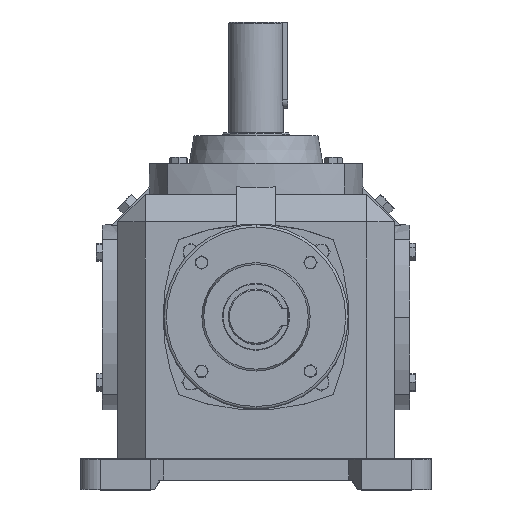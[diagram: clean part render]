
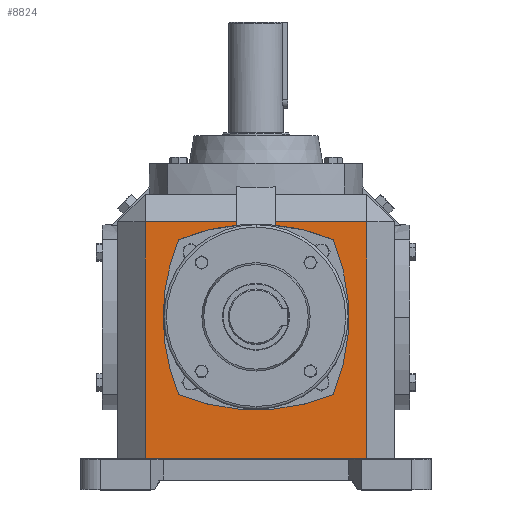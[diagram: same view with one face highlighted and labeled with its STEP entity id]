
A CAD part, top view. The second image highlights one B-rep face of the part: STEP entity #8824.
In plain terms, the highlighted planar face has unit normal (0, 0, 1).
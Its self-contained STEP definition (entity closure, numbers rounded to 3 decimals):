
#12 = ORIENTED_EDGE ( 'NONE', *, *, #2185, .T. ) ;
#111 = ORIENTED_EDGE ( 'NONE', *, *, #13723, .T. ) ;
#138 = CARTESIAN_POINT ( 'NONE',  ( 62.819, -62.819, 112.5 ) ) ;
#168 = ORIENTED_EDGE ( 'NONE', *, *, #12057, .T. ) ;
#200 = DIRECTION ( 'NONE',  ( 0., 0., 1. ) ) ;
#273 = CIRCLE ( 'NONE', #12352, 162.788 ) ;
#297 = LINE ( 'NONE', #4322, #12336 ) ;
#361 = VECTOR ( 'NONE', #5824, 1000. ) ;
#385 = VERTEX_POINT ( 'NONE', #1208 ) ;
#752 = CARTESIAN_POINT ( 'NONE',  ( 62.819, 62.819, 112.5 ) ) ;
#753 = CIRCLE ( 'NONE', #1427, 162.788 ) ;
#971 = CARTESIAN_POINT ( 'NONE',  ( -62.819, 62.819, 112.5 ) ) ;
#1208 = CARTESIAN_POINT ( 'NONE',  ( 15.8, 77.428, 112.5 ) ) ;
#1216 = CARTESIAN_POINT ( 'NONE',  ( -62.819, -62.819, 112.5 ) ) ;
#1262 = CARTESIAN_POINT ( 'NONE',  ( 87.36, 0., 112.5 ) ) ;
#1427 = AXIS2_PLACEMENT_3D ( 'NONE', #19741, #2568, #7350 ) ;
#1588 = CARTESIAN_POINT ( 'NONE',  ( -87.36, 0., 112.5 ) ) ;
#1984 = CARTESIAN_POINT ( 'NONE',  ( -15.8, 100., 112.5 ) ) ;
#2087 = LINE ( 'NONE', #3438, #6292 ) ;
#2169 = AXIS2_PLACEMENT_3D ( 'NONE', #3971, #11737, #5688 ) ;
#2185 = EDGE_CURVE ( 'NONE', #14035, #4800, #297, .T. ) ;
#2568 = DIRECTION ( 'NONE',  ( 0., 0., 1. ) ) ;
#2859 = DIRECTION ( 'NONE',  ( 1., 0., 0. ) ) ;
#3051 = EDGE_CURVE ( 'NONE', #19356, #20432, #753, .T. ) ;
#3081 = AXIS2_PLACEMENT_3D ( 'NONE', #18216, #5641, #18088 ) ;
#3438 = CARTESIAN_POINT ( 'NONE',  ( 15.8, 100., 112.5 ) ) ;
#3863 = CARTESIAN_POINT ( 'NONE',  ( -89.928, 100., 112.5 ) ) ;
#3971 = CARTESIAN_POINT ( 'NONE',  ( 0., 87.36, 112.5 ) ) ;
#4217 = CARTESIAN_POINT ( 'NONE',  ( -112.5, -115., 112.5 ) ) ;
#4322 = CARTESIAN_POINT ( 'NONE',  ( -112.5, 77.428, 112.5 ) ) ;
#4475 = ORIENTED_EDGE ( 'NONE', *, *, #5211, .F. ) ;
#4800 = VERTEX_POINT ( 'NONE', #6558 ) ;
#4894 = LINE ( 'NONE', #3863, #12706 ) ;
#5059 = DIRECTION ( 'NONE',  ( 0., 0., 1. ) ) ;
#5211 = EDGE_CURVE ( 'NONE', #14199, #10348, #6864, .T. ) ;
#5226 = ORIENTED_EDGE ( 'NONE', *, *, #12959, .T. ) ;
#5229 = ORIENTED_EDGE ( 'NONE', *, *, #7537, .T. ) ;
#5592 = ORIENTED_EDGE ( 'NONE', *, *, #15412, .F. ) ;
#5617 = VECTOR ( 'NONE', #12492, 1000. ) ;
#5641 = DIRECTION ( 'NONE',  ( 0., 0., 1. ) ) ;
#5688 = DIRECTION ( 'NONE',  ( 1., 0., 0. ) ) ;
#5824 = DIRECTION ( 'NONE',  ( 1., 0., 0. ) ) ;
#5943 = DIRECTION ( 'NONE',  ( 0., 0., -1. ) ) ;
#6292 = VECTOR ( 'NONE', #16393, 1000. ) ;
#6342 = VERTEX_POINT ( 'NONE', #9116 ) ;
#6440 = EDGE_CURVE ( 'NONE', #16134, #385, #18842, .T. ) ;
#6558 = CARTESIAN_POINT ( 'NONE',  ( -89.928, 77.428, 112.5 ) ) ;
#6569 = CARTESIAN_POINT ( 'NONE',  ( 89.928, -115., 112.5 ) ) ;
#6720 = FACE_OUTER_BOUND ( 'NONE', #19924, .T. ) ;
#6864 = CIRCLE ( 'NONE', #8597, 162.788 ) ;
#7350 = DIRECTION ( 'NONE',  ( 1., 0., 0. ) ) ;
#7514 = DIRECTION ( 'NONE',  ( 0., 0., 1. ) ) ;
#7535 = CARTESIAN_POINT ( 'NONE',  ( -15.8, 77.428, 112.5 ) ) ;
#7537 = EDGE_CURVE ( 'NONE', #385, #10348, #2087, .T. ) ;
#7943 = CIRCLE ( 'NONE', #2169, 162.788 ) ;
#8005 = ORIENTED_EDGE ( 'NONE', *, *, #11268, .F. ) ;
#8242 = ORIENTED_EDGE ( 'NONE', *, *, #19380, .F. ) ;
#8485 = VERTEX_POINT ( 'NONE', #138 ) ;
#8597 = AXIS2_PLACEMENT_3D ( 'NONE', #14420, #5059, #15990 ) ;
#8640 = ORIENTED_EDGE ( 'NONE', *, *, #3051, .F. ) ;
#8824 = ADVANCED_FACE ( 'NONE', ( #6720 ), #18603, .F. ) ;
#9116 = CARTESIAN_POINT ( 'NONE',  ( -75.428, 0., 112.5 ) ) ;
#9486 = DIRECTION ( 'NONE',  ( 0., 1., 0. ) ) ;
#9974 = LINE ( 'NONE', #14172, #16815 ) ;
#10348 = VERTEX_POINT ( 'NONE', #16343 ) ;
#10471 = LINE ( 'NONE', #4217, #361 ) ;
#10672 = CIRCLE ( 'NONE', #3081, 162.788 ) ;
#11124 = EDGE_CURVE ( 'NONE', #4800, #19199, #4894, .T. ) ;
#11268 = EDGE_CURVE ( 'NONE', #6342, #16092, #17360, .T. ) ;
#11737 = DIRECTION ( 'NONE',  ( 0., 0., 1. ) ) ;
#12057 = EDGE_CURVE ( 'NONE', #19199, #17233, #10471, .T. ) ;
#12336 = VECTOR ( 'NONE', #18100, 1000. ) ;
#12352 = AXIS2_PLACEMENT_3D ( 'NONE', #1588, #200, #17493 ) ;
#12392 = ORIENTED_EDGE ( 'NONE', *, *, #18499, .F. ) ;
#12492 = DIRECTION ( 'NONE',  ( -1., 0., 0. ) ) ;
#12706 = VECTOR ( 'NONE', #16318, 1000. ) ;
#12959 = EDGE_CURVE ( 'NONE', #17233, #16134, #9974, .T. ) ;
#13655 = CARTESIAN_POINT ( 'NONE',  ( -112.5, 100., 112.5 ) ) ;
#13723 = EDGE_CURVE ( 'NONE', #19356, #14035, #17530, .T. ) ;
#14035 = VERTEX_POINT ( 'NONE', #7535 ) ;
#14172 = CARTESIAN_POINT ( 'NONE',  ( 89.928, 100., 112.5 ) ) ;
#14199 = VERTEX_POINT ( 'NONE', #752 ) ;
#14420 = CARTESIAN_POINT ( 'NONE',  ( 0., -87.36, 112.5 ) ) ;
#15412 = EDGE_CURVE ( 'NONE', #8485, #14199, #273, .T. ) ;
#15990 = DIRECTION ( 'NONE',  ( 1., 0., 0. ) ) ;
#16083 = CARTESIAN_POINT ( 'NONE',  ( -15.8, 74.659, 112.5 ) ) ;
#16092 = VERTEX_POINT ( 'NONE', #1216 ) ;
#16134 = VERTEX_POINT ( 'NONE', #16745 ) ;
#16318 = DIRECTION ( 'NONE',  ( 0., -1., 0. ) ) ;
#16343 = CARTESIAN_POINT ( 'NONE',  ( 15.8, 74.659, 112.5 ) ) ;
#16393 = DIRECTION ( 'NONE',  ( 0., -1., 0. ) ) ;
#16745 = CARTESIAN_POINT ( 'NONE',  ( 89.928, 77.428, 112.5 ) ) ;
#16815 = VECTOR ( 'NONE', #9486, 1000. ) ;
#16947 = DIRECTION ( 'NONE',  ( -1., 0., 0. ) ) ;
#17054 = VECTOR ( 'NONE', #17558, 1000. ) ;
#17233 = VERTEX_POINT ( 'NONE', #6569 ) ;
#17360 = CIRCLE ( 'NONE', #18039, 162.788 ) ;
#17417 = ORIENTED_EDGE ( 'NONE', *, *, #6440, .T. ) ;
#17493 = DIRECTION ( 'NONE',  ( 1., 0., 0. ) ) ;
#17530 = LINE ( 'NONE', #1984, #17054 ) ;
#17558 = DIRECTION ( 'NONE',  ( 0., 1., 0. ) ) ;
#17899 = CARTESIAN_POINT ( 'NONE',  ( -89.928, -115., 112.5 ) ) ;
#18039 = AXIS2_PLACEMENT_3D ( 'NONE', #1262, #7514, #2859 ) ;
#18088 = DIRECTION ( 'NONE',  ( 1., 0., 0. ) ) ;
#18100 = DIRECTION ( 'NONE',  ( -1., 0., 0. ) ) ;
#18216 = CARTESIAN_POINT ( 'NONE',  ( 87.36, 0., 112.5 ) ) ;
#18499 = EDGE_CURVE ( 'NONE', #20432, #6342, #10672, .T. ) ;
#18603 = PLANE ( 'NONE',  #19263 ) ;
#18842 = LINE ( 'NONE', #20166, #5617 ) ;
#19015 = ORIENTED_EDGE ( 'NONE', *, *, #11124, .T. ) ;
#19199 = VERTEX_POINT ( 'NONE', #17899 ) ;
#19263 = AXIS2_PLACEMENT_3D ( 'NONE', #13655, #5943, #16947 ) ;
#19356 = VERTEX_POINT ( 'NONE', #16083 ) ;
#19380 = EDGE_CURVE ( 'NONE', #16092, #8485, #7943, .T. ) ;
#19741 = CARTESIAN_POINT ( 'NONE',  ( 0., -87.36, 112.5 ) ) ;
#19924 = EDGE_LOOP ( 'NONE', ( #8640, #111, #12, #19015, #168, #5226, #17417, #5229, #4475, #5592, #8242, #8005, #12392 ) ) ;
#20166 = CARTESIAN_POINT ( 'NONE',  ( -112.5, 77.428, 112.5 ) ) ;
#20432 = VERTEX_POINT ( 'NONE', #971 ) ;
